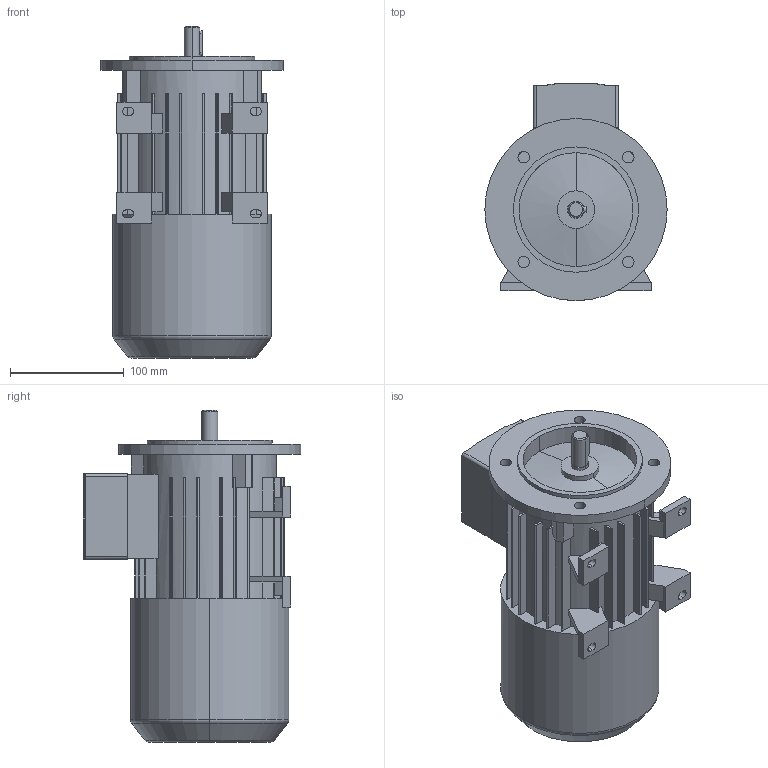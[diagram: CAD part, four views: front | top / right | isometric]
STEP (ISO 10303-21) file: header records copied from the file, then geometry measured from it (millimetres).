
FILE_DESCRIPTION((''),'2;1');
FILE_NAME('1LA7070-2AA16-Z-G26_PRT','2002-04-12T',('martin könig'),(''),'PRO/ENGINEER BY PARAMETRIC TECHNOLOGY CORPORATION, 2002030','PRO/ENGINEER BY PARAMETRIC TECHNOLOGY CORPORATION, 2002030','');
FILE_SCHEMA(('CONFIG_CONTROL_DESIGN'));
Length unit declared in the file: millimetre
Products named in the file (1): 1LA7070-2AA16-Z-G26_PRT
Bounding box: 160 x 191 x 291.5 mm (x, y, z)
Volume: 3724269.8 mm3; surface area: 226471.6 mm2
Topology: 1 solids, 1 shells, 275 faces, 768 edges, 504 vertices
Faces by surface type: plane 180, cylinder 85, cone 6, torus 4
Entity records: 8947 total; most frequent: CARTESIAN_POINT 1578, DIRECTION 1556, ORIENTED_EDGE 1536, EDGE_CURVE 768, VECTOR 526, LINE 526, AXIS2_PLACEMENT_3D 515, VERTEX_POINT 504
